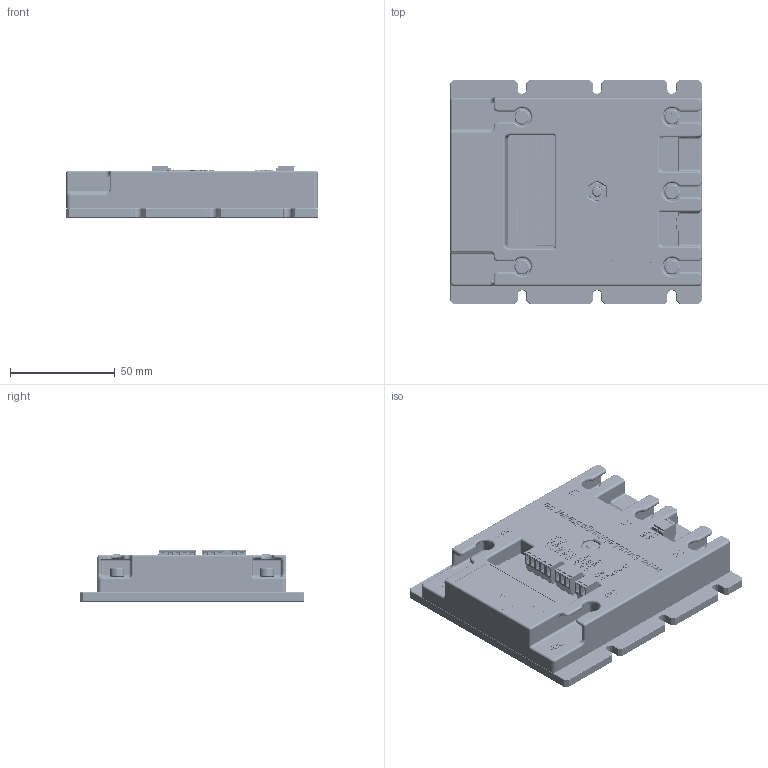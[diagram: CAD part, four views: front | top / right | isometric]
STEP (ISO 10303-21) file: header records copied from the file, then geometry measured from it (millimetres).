
FILE_DESCRIPTION(/* description */ ('Alibre Inc.'),/* implementation_level */ '2;1');
FILE_NAME(/* name */ 'export-06BDACD6-0927-45E4-9192-0F71B8AF3C48',/* time_stamp */ '2022-04-07T18:06:18+02:00',/* author */ (''),/* organization */ (''),/* preprocessor_version */ 'ST-DEVELOPER v17',/* originating_system */ 'Alibre',/* authorisation */ '');
FILE_SCHEMA (('AUTOMOTIVE_DESIGN'));
Length unit declared in the file: millimetre
Products named in the file (33): 691325110002; 6913211000xx_PIN; Assem1; 691321100005; 691325110003; 691364100002_M; 6913611000xx_CAGE; 6913611000xx_VIS; 6913611000xx_PIN; 691364100002; 691364100003_M; 691364100003; mbo Oßwald | 10 00 0934 0005/001; UNI 7688 - d M5 x l 25 - 4.8; UNI 7688 - d M4 x l 6 - 4.8
Bounding box: 120 x 107 x 24.65 mm (x, y, z)
Volume: 154035.3 mm3; surface area: 133731.7 mm2
Topology: 124 solids, 124 shells, 8185 faces, 21857 edges, 14245 vertices
Faces by surface type: plane 4840, bspline 1411, cylinder 1247, torus 343, cone 264, sphere 80
Full cylindrical faces by diameter (mm): 0.5 x10, 1.3 x12, 1.5 x24, 1.8 x12, 1.9 x36, 2.1 x12, 2.6 x9, 2.8 x24, 3 x1, 3.2 x90, 4 x54, 4.75 x1, 5 x1, 5.2 x6, 5.5 x1, 6.9 x5, 7 x10, 8 x1, 8.5 x5, 9 x1, 9.22 x8, 10 x16, 10.1 x10, 10.5 x1
Entity records: 176856 total; most frequent: CARTESIAN_POINT 52437, ORIENTED_EDGE 28726, DIRECTION 17812, EDGE_CURVE 14363, VECTOR 9533, LINE 9533, VERTEX_POINT 9368, EDGE_LOOP 5907
